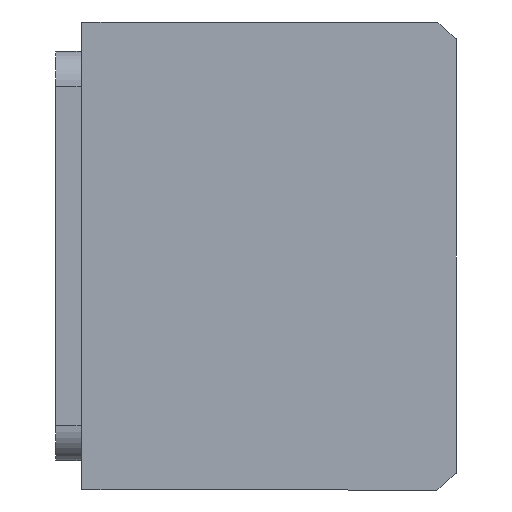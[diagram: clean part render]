
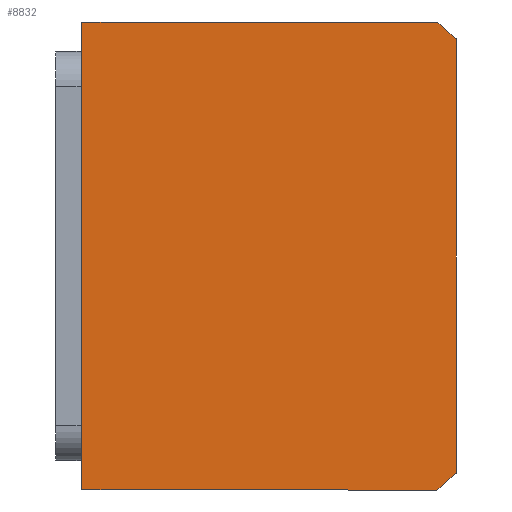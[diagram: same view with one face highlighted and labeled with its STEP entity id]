
A CAD part, front view. The second image highlights one B-rep face of the part: STEP entity #8832.
In plain terms, the highlighted planar face has unit normal (0, -1, 0) as drawn and (0, 0, -1) by its records, which use the part's own axes.
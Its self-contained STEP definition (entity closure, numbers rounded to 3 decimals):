
#310 = CARTESIAN_POINT ( 'NONE',  ( -40., -75.507, 0. ) ) ;
#576 = LINE ( 'NONE', #11812, #5945 ) ;
#1812 = DIRECTION ( 'NONE',  ( -1., 0., 0. ) ) ;
#1998 = LINE ( 'NONE', #8177, #12939 ) ;
#2015 = VECTOR ( 'NONE', #8871, 1000. ) ;
#2490 = FACE_OUTER_BOUND ( 'NONE', #5587, .T. ) ;
#3287 = DIRECTION ( 'NONE',  ( 0., 0., 1. ) ) ;
#3372 = DIRECTION ( 'NONE',  ( 0., -1., 0. ) ) ;
#3420 = CARTESIAN_POINT ( 'NONE',  ( 40., -72.145, 0. ) ) ;
#3721 = DIRECTION ( 'NONE',  ( 1., 0., 0. ) ) ;
#3928 = EDGE_CURVE ( 'NONE', #6109, #11614, #8058, .T. ) ;
#4146 = CARTESIAN_POINT ( 'NONE',  ( 0., -40.507, 0. ) ) ;
#4575 = EDGE_CURVE ( 'NONE', #11614, #11532, #1998, .T. ) ;
#4943 = VERTEX_POINT ( 'NONE', #9199 ) ;
#5054 = ORIENTED_EDGE ( 'NONE', *, *, #4575, .F. ) ;
#5265 = DIRECTION ( 'NONE',  ( 1., 0., 0. ) ) ;
#5314 = VERTEX_POINT ( 'NONE', #12985 ) ;
#5378 = ORIENTED_EDGE ( 'NONE', *, *, #6071, .F. ) ;
#5587 = EDGE_LOOP ( 'NONE', ( #11346, #5378, #5054, #10024, #6914, #11800 ) ) ;
#5590 = AXIS2_PLACEMENT_3D ( 'NONE', #4146, #11576, #5265 ) ;
#5631 = CARTESIAN_POINT ( 'NONE',  ( 40., -11.507, 0. ) ) ;
#5945 = VECTOR ( 'NONE', #3372, 1000. ) ;
#6005 = VECTOR ( 'NONE', #10964, 1000. ) ;
#6071 = EDGE_CURVE ( 'NONE', #11532, #13205, #576, .T. ) ;
#6109 = VERTEX_POINT ( 'NONE', #3420 ) ;
#6886 = PLANE ( 'NONE',  #9733 ) ;
#6914 = ORIENTED_EDGE ( 'NONE', *, *, #13280, .F. ) ;
#7027 = CIRCLE ( 'NONE', #10960, 51. ) ;
#8058 = LINE ( 'NONE', #5631, #2015 ) ;
#8177 = CARTESIAN_POINT ( 'NONE',  ( -40., -11.507, 0. ) ) ;
#8784 = LINE ( 'NONE', #310, #6005 ) ;
#8832 = ADVANCED_FACE ( 'NONE', ( #2490 ), #6886, .F. ) ;
#8871 = DIRECTION ( 'NONE',  ( 0., 1., 0. ) ) ;
#9028 = CARTESIAN_POINT ( 'NONE',  ( 0., 0., 0. ) ) ;
#9199 = CARTESIAN_POINT ( 'NONE',  ( 37.094, -75.507, 0. ) ) ;
#9621 = CARTESIAN_POINT ( 'NONE',  ( -40., -72.145, 0. ) ) ;
#9665 = CARTESIAN_POINT ( 'NONE',  ( 0., -40.507, 0. ) ) ;
#9733 = AXIS2_PLACEMENT_3D ( 'NONE', #9028, #10097, #3721 ) ;
#10024 = ORIENTED_EDGE ( 'NONE', *, *, #3928, .F. ) ;
#10097 = DIRECTION ( 'NONE',  ( 0., 0., 1. ) ) ;
#10444 = CARTESIAN_POINT ( 'NONE',  ( 40., -11.507, 0. ) ) ;
#10737 = DIRECTION ( 'NONE',  ( 1., 0., 0. ) ) ;
#10798 = EDGE_CURVE ( 'NONE', #13205, #5314, #12260, .T. ) ;
#10960 = AXIS2_PLACEMENT_3D ( 'NONE', #9665, #3287, #10737 ) ;
#10964 = DIRECTION ( 'NONE',  ( 1., 0., 0. ) ) ;
#11346 = ORIENTED_EDGE ( 'NONE', *, *, #10798, .F. ) ;
#11439 = CARTESIAN_POINT ( 'NONE',  ( -40., -11.507, 0. ) ) ;
#11532 = VERTEX_POINT ( 'NONE', #11439 ) ;
#11576 = DIRECTION ( 'NONE',  ( 0., 0., 1. ) ) ;
#11614 = VERTEX_POINT ( 'NONE', #10444 ) ;
#11800 = ORIENTED_EDGE ( 'NONE', *, *, #13396, .F. ) ;
#11812 = CARTESIAN_POINT ( 'NONE',  ( -40., -11.507, 0. ) ) ;
#12260 = CIRCLE ( 'NONE', #5590, 51. ) ;
#12939 = VECTOR ( 'NONE', #1812, 1000. ) ;
#12985 = CARTESIAN_POINT ( 'NONE',  ( -37.094, -75.507, 0. ) ) ;
#13205 = VERTEX_POINT ( 'NONE', #9621 ) ;
#13280 = EDGE_CURVE ( 'NONE', #4943, #6109, #7027, .T. ) ;
#13396 = EDGE_CURVE ( 'NONE', #5314, #4943, #8784, .T. ) ;
